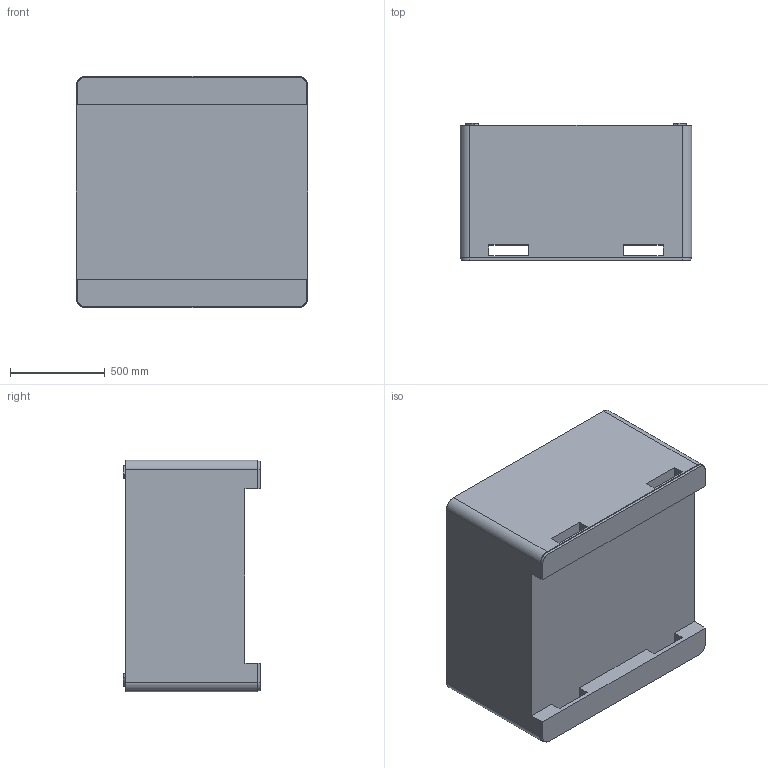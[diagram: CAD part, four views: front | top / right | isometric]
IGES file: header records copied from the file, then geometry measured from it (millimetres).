
Start section: SolidWorks IGES file using analytic representation for surfaces
Global section: file name: C:\Users\tnewton\Dropbox (Macro Plastics)\Macro Bin 29 Block Models\29FV 4-Way Block Model.IGS; native system: SolidWorks 2016; preprocessor: SolidWorks 2016; author: tnewton; date: 161018.105133; units: inch
Bounding box: 1219.2 x 722.63 x 1219.2 mm (x, y, z)
Surface area: 9074378 mm2 (no closed solid volume)
Topology: 0 solids, 0 shells, 71 faces, 728 edges, 728 vertices
Faces by surface type: bspline 51, revolution 20
